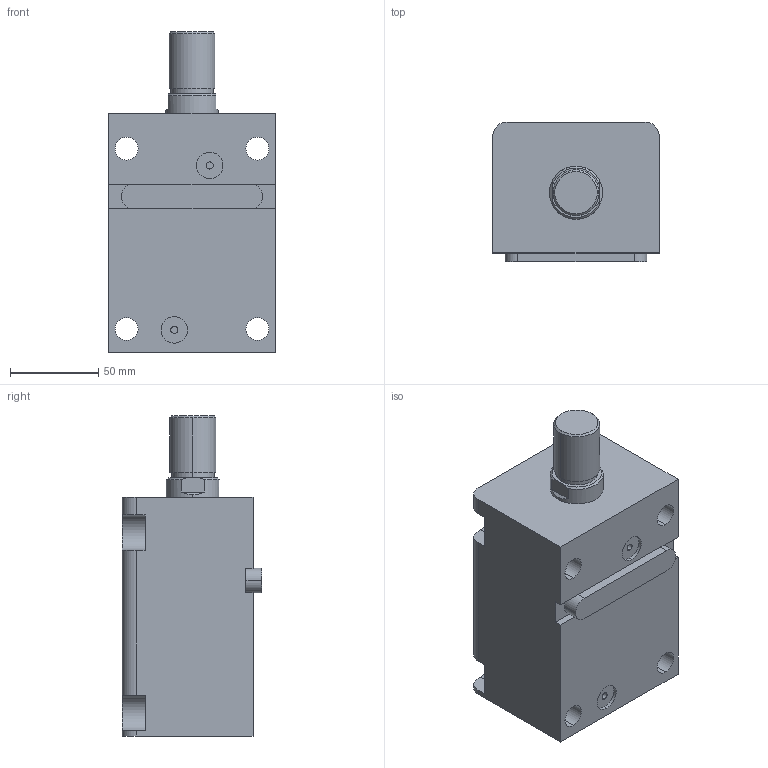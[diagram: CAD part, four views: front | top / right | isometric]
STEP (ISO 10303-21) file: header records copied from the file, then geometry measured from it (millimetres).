
FILE_DESCRIPTION (( 'STEP AP203' ), '1' );
FILE_NAME ('HTB-LAM50-75W.STEP', '2023-03-20T01:10:11', ( '微软用户' ), ( '微软中国' ), 'SwSTEP 2.0', 'SolidWorks 2012', '' );
FILE_SCHEMA (( 'CONFIG_CONTROL_DESIGN' ));
Length unit declared in the file: millimetre
Products named in the file (4): HTB-LAM50-75W; HTB-LWM50-瑩; HTB-LAM50-75W活塞杆; HTB-LAM50-75掛极
Assembly tree (3 placements, depth 2):
  HTB-LAM50-75W
    HTB-LAM50-75掛极
    HTB-LAM50-75W活塞杆
    HTB-LWM50-瑩
Bounding box: 94 x 79 x 181 mm (x, y, z)
Volume: 820399 mm3; surface area: 114902.4 mm2
Topology: 3 solids, 3 shells, 90 faces, 219 edges, 144 vertices
Faces by surface type: cylinder 41, plane 41, cone 4, torus 4
Entity records: 3107 total; most frequent: DIRECTION 497, CARTESIAN_POINT 487, ORIENTED_EDGE 438, EDGE_CURVE 219, AXIS2_PLACEMENT_3D 190, VERTEX_POINT 144, LINE 117, VECTOR 117
